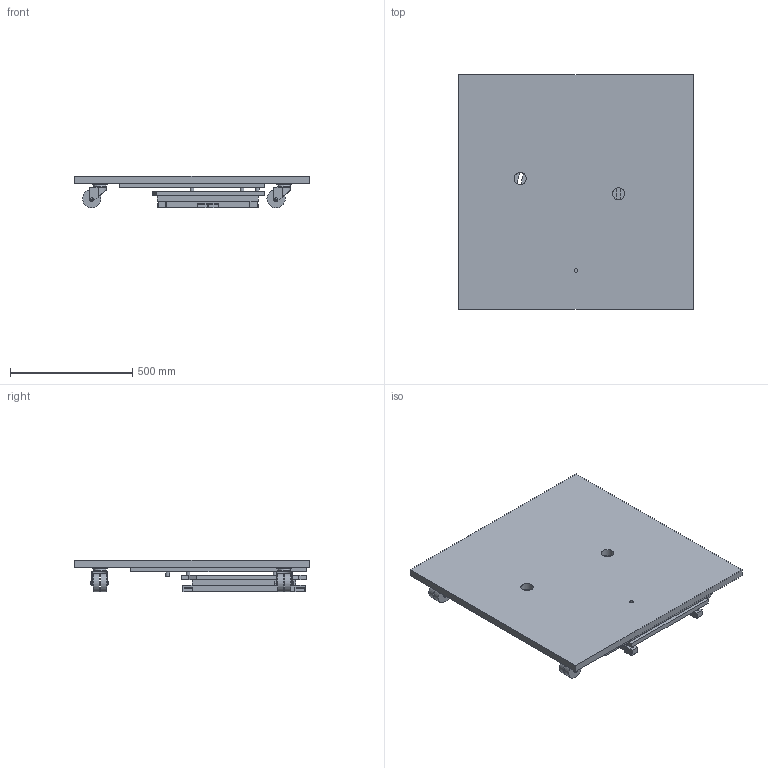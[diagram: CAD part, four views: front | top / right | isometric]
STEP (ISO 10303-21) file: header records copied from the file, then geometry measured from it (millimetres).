
FILE_DESCRIPTION( ( 'STEP AP214' ), '1' );
FILE_NAME( 'D:/YUG/2025/Missing_article_list/Creation/roomspin_1000_180.stp', '2025-04-02T11:17:28', ( '' ), ( '' ), ' ', 'PARTsolutions', ' ' );
FILE_SCHEMA( ( 'AUTOMOTIVE_DESIGN { 1 0 10303 214 1 1 1 1 }' ) );
Length unit declared in the file: millimetre
Products named in the file (5): 96460511 dummy_rs1000 _180; _base_element_1000; _functional_element_1000; _base_plate_1000; _roles
Assembly tree (7 placements, depth 2):
  96460511 dummy_rs1000 _180
    _base_element_1000
    _functional_element_1000
    _base_plate_1000
    _roles  x4
Bounding box: 962 x 962 x 131 mm (x, y, z)
Volume: 46187865.6 mm3; surface area: 3776859.2 mm2
Topology: 7 solids, 15 shells, 432 faces, 1024 edges, 670 vertices
Faces by surface type: plane 288, cylinder 140, bspline 4
Full cylindrical faces by diameter (mm): 5 x16, 5.4 x13, 8 x6, 8.3 x2, 9 x4, 10 x20, 15 x1, 16 x4, 50 x4, 75 x8
Entity records: 10041 total; most frequent: CARTESIAN_POINT 1327, DIRECTION 1322, ORIENTED_EDGE 1192, EDGE_CURVE 596, AXIS2_PLACEMENT_3D 443, LINE 436, VECTOR 436, VERTEX_POINT 420
